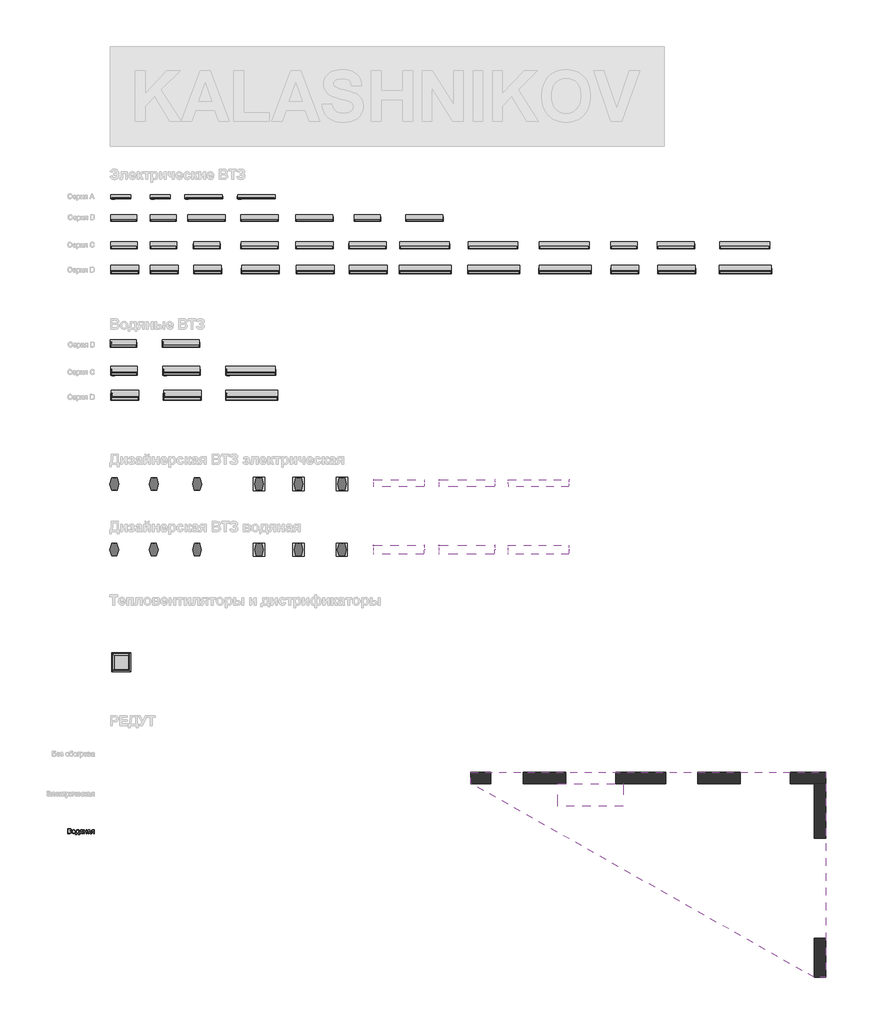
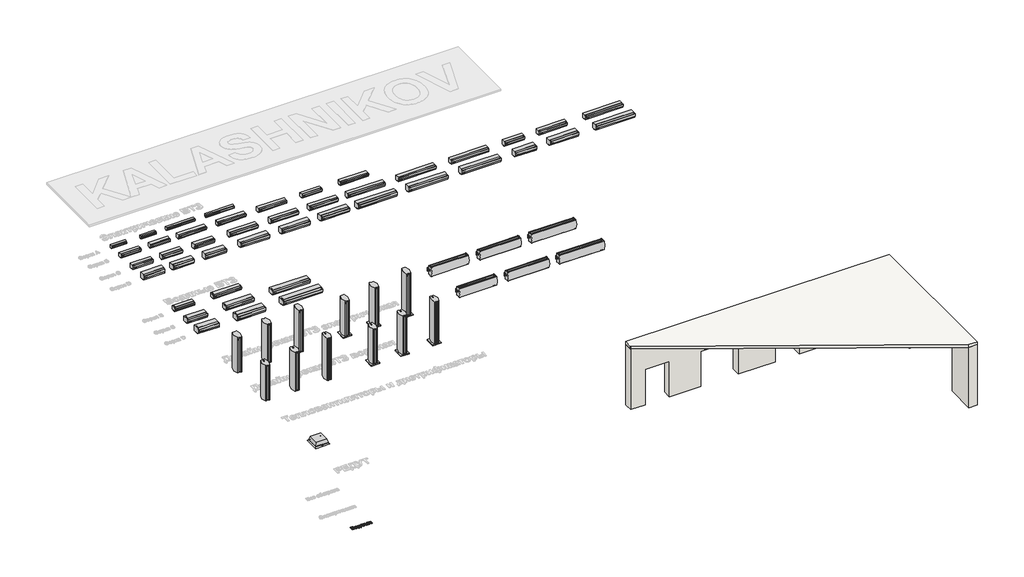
# One storey, part 1 of 8: 63 proxies, 2 slabs, 2 walls.
"""IFC4 building model written with IfcOpenShell, lengths in millimetres."""

from ifc_helpers import new_model, si_unit, frame, origin, origin_with_axes, place, context, project, spatial, polyline, outline, extrude, faceted_brep, transform, mapped, element, save
from components import mechanical_equipment_baf8c299, mechanical_equipment_bb79ffea, mechanical_equipment_50f86838, mechanical_equipment_3402af0e, mechanical_equipment_5d67843a, mechanical_equipment_067d93a8, mechanical_equipment_b95bc2a5, mechanical_equipment_7584899c, mechanical_equipment_d3ca2cf4, mechanical_equipment_8353c0a6, mechanical_equipment_543ff3b5, mechanical_equipment_aabc1666, mechanical_equipment_9118009e, mechanical_equipment_6979c24a, mechanical_equipment_54d49482, mechanical_equipment_cf9eca2f, mechanical_equipment_031cc24c, mechanical_equipment_d82694fb, mechanical_equipment_9d049b99, mechanical_equipment_add983ee, mechanical_equipment_00a1be9c, mechanical_equipment_44363e42, mechanical_equipment_894f7229, mechanical_equipment_7947e5b6, mechanical_equipment_0e06450b, mechanical_equipment_313d402d, mechanical_equipment_6004fcc8, mechanical_equipment_da6643d4, mechanical_equipment_ca8eee42, mechanical_equipment_3b4bcd0b, mechanical_equipment_2b375cc0, mechanical_equipment_2aded307, mechanical_equipment_84d2b772, mechanical_equipment_74a944ee, mechanical_equipment_6c2af282, mechanical_equipment_045b932d, mechanical_equipment_433b3347, slab_f59de0b8

model = new_model("IFC4")

# Units and contexts
model_context = context("Model", 3, world=origin())
ifc_project = project(units=[si_unit("LENGTHUNIT", "METRE", prefix="MILLI")], contexts=[model_context])

# Site, building, storey
site = spatial("IfcSite", under=ifc_project)
building = spatial("IfcBuilding", under=site)
storey = spatial("IfcBuildingStorey", under=building, Name="Уровень 1", Elevation=0.0)

# Proxies
placement = place(None, origin())
element("IfcBuildingElementProxy", 1, Name="ИЗТТ_Текст2", ObjectType="ИЗТТ_Текст2", at=placement, inside=storey, context=model_context, shape_type="SweptSolid", body=[
    extrude(outline(polyline([(-17054.3418668, -9647.3341615), (-17054.3418668, -9446.4215412), (-16977.675259, -9446.4215412), (-16956.5894893, -9447.8992005), (-16940.1267701, -9452.3321786), (-16927.5084176, -9459.8308399), (-16917.9557485, -9470.5055492), (-16911.9408779, -9483.0625879), (-16909.935921, -9496.2082379), (-16911.6220468, -9508.3054242), (-16916.6804242, -9519.6791092), (-16925.1478415, -9529.6303171), (-16937.0610868, -9537.4600723), (-16922.8301849, -9544.8912886), (-16912.3148912, -9556.1975286), (-16905.821774, -9570.6307655), (-16903.6574016, -9587.4429727), (-16909.568039, -9614.4455111), (-16924.2097424, -9633.6734767), (-16946.0619329, -9643.8760707), (-16978.2638702, -9647.3341615), (-17054.3418668, -9647.3341615)]), holes=[polyline([(-17029.2277893, -9528.0422932), (-16983.3651672, -9528.0422932), (-16956.583358, -9525.8840522), (-16940.4701266, -9516.5889004), (-16935.0499985, -9500.2304144), (-16940.1022446, -9483.8474028), (-16954.5722697, -9474.1598436), (-16986.8477834, -9471.5356187), (-17029.2277893, -9471.5356187), (-17029.2277893, -9528.0422932)]), polyline([(-17029.2277893, -9622.220084), (-16977.72431, -9622.220084), (-16959.0849555, -9621.2390653), (-16943.3150807, -9615.7698863), (-16932.867232, -9604.6107991), (-16928.7714791, -9587.6882273), (-16933.5784705, -9568.1659561), (-16939.875384, -9561.1087532), (-16949.1521417, -9556.5163596), (-16980.1768566, -9553.1563707), (-17029.2277893, -9553.1563707), (-17029.2277893, -9622.220084)])]), origin_with_axes(), (0.0, 0.0, 1.0), 30.0),
    extrude(outline(polyline([(-16878.5433241, -9573.5615587), (-16873.1109333, -9537.9873698), (-16866.3204448, -9524.1642038), (-16856.8137609, -9512.9836569), (-16836.678353, -9500.7331864), (-16812.5698196, -9496.6496963), (-16786.1865492, -9501.6222346), (-16765.1130422, -9516.5398495), (-16751.2990733, -9540.2253186), (-16746.694417, -9571.5014196), (-16748.7300307, -9596.8730145), (-16754.8368718, -9616.1868192), (-16764.8371307, -9630.650713), (-16778.5529978, -9641.472575), (-16794.8440388, -9648.2232097), (-16812.5698196, -9650.4734212), (-16839.2719211, -9645.519277), (-16860.3209026, -9630.6568444), (-16873.9877187, -9606.4747346), (-16878.5433241, -9573.5615587)]), holes=[polyline([(-16853.4292465, -9573.5125078), (-16850.5229788, -9596.2414837), (-16841.8041755, -9612.4344229), (-16828.683051, -9622.1281135), (-16812.5698196, -9625.3593437), (-16796.5301646, -9622.1097194), (-16783.4335656, -9612.3608465), (-16774.7147623, -9595.9533095), (-16771.8084945, -9572.7276929), (-16774.7331564, -9550.6609045), (-16783.507142, -9534.6886946), (-16796.6221351, -9524.995004), (-16812.5698196, -9521.7637738), (-16828.683051, -9524.9827413), (-16841.8041755, -9534.6396436), (-16850.5229788, -9550.7957946), (-16853.4292465, -9573.5125078)])]), origin_with_axes(), (0.0, 0.0, 1.0), 30.0),
    extrude(outline(polyline([(-16696.4662619, -9499.788956), (-16602.2884712, -9499.788956), (-16602.2884712, -9622.220084), (-16583.452913, -9622.220084), (-16583.452913, -9688.1445375), (-16608.5669905, -9688.1445375), (-16608.5669905, -9647.3341615), (-16712.1625604, -9647.3341615), (-16712.1625604, -9688.1445375), (-16737.2766379, -9688.1445375), (-16737.2766379, -9622.220084), (-16721.5803395, -9622.220084), (-16710.1698662, -9601.6002981), (-16702.1806956, -9574.3218482), (-16697.6128275, -9540.3847341), (-16696.4662619, -9499.788956)]), holes=[polyline([(-16674.4914441, -9524.9030335), (-16680.377556, -9582.1209465), (-16693.3270022, -9622.220084), (-16627.4025487, -9622.220084), (-16627.4025487, -9524.9030335), (-16674.4914441, -9524.9030335)])]), origin_with_axes(), (0.0, 0.0, 1.0), 30.0),
    extrude(outline(polyline([(-16442.1862268, -9499.788956), (-16442.1862268, -9647.3341615), (-16467.3003044, -9647.3341615), (-16467.3003044, -9590.827487), (-16480.9855146, -9590.827487), (-16499.624869, -9594.0157977), (-16517.136052, -9615.4510553), (-16537.1488325, -9647.3341615), (-16566.1869847, -9647.3341615), (-16540.9748053, -9607.0142948), (-16529.8402436, -9592.5442697), (-16519.5885986, -9586.1185975), (-16536.7564251, -9580.857885), (-16548.8229545, -9570.8637574), (-16555.9598652, -9557.5709547), (-16558.3388355, -9542.4142165), (-16555.0892112, -9525.2218646), (-16545.3403383, -9511.6102307), (-16529.4355734, -9502.7442747), (-16507.7182729, -9499.788956), (-16442.1862268, -9499.788956)]), holes=[polyline([(-16467.3003044, -9524.9030335), (-16500.409684, -9524.9030335), (-16517.5100654, -9526.3561674), (-16527.2160187, -9530.715569), (-16533.2247579, -9544.3272029), (-16531.0113346, -9553.8982661), (-16524.3710646, -9560.5385361), (-16512.1022, -9564.4196912), (-16493.0029931, -9565.7134095), (-16467.3003044, -9565.7134095), (-16467.3003044, -9524.9030335)])]), origin_with_axes(), (0.0, 0.0, 1.0), 30.0),
    extrude(outline(polyline([(-16404.5151105, -9499.788956), (-16379.401033, -9499.788956), (-16379.401033, -9556.2956304), (-16313.4765795, -9556.2956304), (-16313.4765795, -9499.788956), (-16288.3625019, -9499.788956), (-16288.3625019, -9647.3341615), (-16313.4765795, -9647.3341615), (-16313.4765795, -9581.409708), (-16379.401033, -9581.409708), (-16379.401033, -9647.3341615), (-16404.5151105, -9647.3341615), (-16404.5151105, -9499.788956)])), origin_with_axes(), (0.0, 0.0, 1.0), 30.0),
    extrude(outline(polyline([(-16156.5135949, -9628.4986033), (-16180.8673829, -9645.519277), (-16207.7718195, -9650.4734212), (-16228.7594873, -9647.493577), (-16244.241188, -9638.5540445), (-16253.7877258, -9624.9791989), (-16256.969905, -9608.0934153), (-16252.1629136, -9588.2277876), (-16239.5322984, -9573.8068134), (-16221.9475391, -9565.5662567), (-16200.2179759, -9561.7893349), (-16156.6607477, -9553.1563707), (-16156.5135949, -9547.5645644), (-16158.2426402, -9536.3564263), (-16163.4297764, -9529.0233119), (-16175.030322, -9523.5786583), (-16191.1926043, -9521.7637738), (-16206.1531387, -9522.971653), (-16216.6009874, -9526.5952907), (-16223.7256354, -9533.2968744), (-16228.7165678, -9543.7385917), (-16253.8306453, -9540.599332), (-16242.9658637, -9516.0738656), (-16233.7075002, -9507.8210462), (-16221.0891477, -9501.7019423), (-16187.9552427, -9496.6496963), (-16157.519139, -9501.1133312), (-16140.3267871, -9512.3214693), (-16132.6257906, -9529.3666684), (-16131.3995173, -9551.3414862), (-16131.3995173, -9582.5869303), (-16130.1241931, -9626.217735), (-16125.1209979, -9647.3341615), (-16150.2350755, -9647.3341615), (-16156.5135949, -9628.4986033)]), holes=[polyline([(-16156.5135949, -9578.2704483), (-16197.0296653, -9585.9714447), (-16218.6366011, -9590.0426721), (-16228.4222622, -9596.664548), (-16231.8558275, -9606.3275818), (-16229.9857607, -9613.7955863), (-16224.3755602, -9619.9146901), (-16215.1478535, -9623.9981803), (-16202.4252679, -9625.3593437), (-16188.9362614, -9623.8571588), (-16177.0168847, -9619.3506044), (-16160.6338732, -9604.8070029), (-16156.6607477, -9585.3828335), (-16156.5135949, -9578.2704483)])]), origin_with_axes(), (0.0, 0.0, 1.0), 30.0),
    extrude(outline(polyline([(-15983.8543118, -9499.788956), (-15983.8543118, -9647.3341615), (-16008.9683893, -9647.3341615), (-16008.9683893, -9590.827487), (-16022.6535995, -9590.827487), (-16041.292954, -9594.0157977), (-16058.8041369, -9615.4510553), (-16078.8169175, -9647.3341615), (-16107.8550696, -9647.3341615), (-16082.6428902, -9607.0142948), (-16071.5083285, -9592.5442697), (-16061.2566836, -9586.1185975), (-16078.42451, -9580.857885), (-16090.4910395, -9570.8637574), (-16097.6279502, -9557.5709547), (-16100.0069204, -9542.4142165), (-16096.7572961, -9525.2218646), (-16087.0084232, -9511.6102307), (-16071.1036583, -9502.7442747), (-16049.3863579, -9499.788956), (-15983.8543118, -9499.788956)]), holes=[polyline([(-16008.9683893, -9524.9030335), (-16042.0777689, -9524.9030335), (-16059.1781503, -9526.3561674), (-16068.8841036, -9530.715569), (-16074.8928429, -9544.3272029), (-16072.6794195, -9553.8982661), (-16066.0391495, -9560.5385361), (-16053.770285, -9564.4196912), (-16034.6710781, -9565.7134095), (-16008.9683893, -9565.7134095), (-16008.9683893, -9524.9030335)])]), origin_with_axes(), (0.0, 0.0, 1.0), 30.0),
])
mechanical_equipment_shape = mechanical_equipment_baf8c299(model_context)
element("IfcBuildingElementProxy", 2, Name="ИЗТТ_Завеса_Водяная : KVC-B15W14-11", ObjectType="ИЗТТ_Завеса_Водяная : KVC-B15W14-11", at=placement, inside=storey, context=model_context, shape_type="MappedRepresentation", body=[
    mapped(mechanical_equipment_shape, transform((-12514.5918171, 10150.1543287, 0.0), x_axis=(1.0, 0.0, 0.0), y_axis=(0.0, 1.0, 0.0), z_axis=(0.0, 0.0, 1.0))),
])
mechanical_equipment_2_shape = mechanical_equipment_bb79ffea(model_context)
element("IfcBuildingElementProxy", 3, Name="ИЗТТ_Завеса_Водяная : KVC-B10W8-11", ObjectType="ИЗТТ_Завеса_Водяная : KVC-B10W8-11", at=placement, inside=storey, context=model_context, shape_type="MappedRepresentation", body=[
    mapped(mechanical_equipment_2_shape, transform((-14817.4711208, 10150.1543287, 0.0), x_axis=(1.0, 0.0, 0.0), y_axis=(0.0, 1.0, 0.0), z_axis=(0.0, 0.0, 1.0))),
])
mechanical_equipment_3_shape = mechanical_equipment_50f86838(model_context)
element("IfcBuildingElementProxy", 4, Name="ИЗТТ_Завеса_Водяная : KVC-D20W50-11", ObjectType="ИЗТТ_Завеса_Водяная : KVC-D20W50-11", at=placement, inside=storey, context=model_context, shape_type="MappedRepresentation", body=[
    mapped(mechanical_equipment_3_shape, transform((-9678.6283059, 8128.0241411, 0.0), x_axis=(1.0, 0.0, 0.0), y_axis=(0.0, 1.0, 0.0), z_axis=(0.0, 0.0, 1.0))),
])
mechanical_equipment_4_shape = mechanical_equipment_3402af0e(model_context)
element("IfcBuildingElementProxy", 5, Name="ИЗТТ_Завеса_Водяная : KVC-D15W33-11", ObjectType="ИЗТТ_Завеса_Водяная : KVC-D15W33-11", at=placement, inside=storey, context=model_context, shape_type="MappedRepresentation", body=[
    mapped(mechanical_equipment_4_shape, transform((-12454.5918171, 8128.0241411, 0.0), x_axis=(1.0, 0.0, 0.0), y_axis=(0.0, 1.0, 0.0), z_axis=(0.0, 0.0, 1.0))),
])
mechanical_equipment_5_shape = mechanical_equipment_5d67843a(model_context)
element("IfcBuildingElementProxy", 6, Name="ИЗТТ_Завеса_Водяная : KVC-D10W20-11", ObjectType="ИЗТТ_Завеса_Водяная : KVC-D10W20-11", at=placement, inside=storey, context=model_context, shape_type="MappedRepresentation", body=[
    mapped(mechanical_equipment_5_shape, transform((-14757.4711208, 8128.0241411, 0.0), x_axis=(1.0, 0.0, 0.0), y_axis=(0.0, 1.0, 0.0), z_axis=(0.0, 0.0, 1.0))),
])
mechanical_equipment_6_shape = mechanical_equipment_067d93a8(model_context)
element("IfcBuildingElementProxy", 7, Name="ИЗТТ_Завеса_Водяная : KVC-C20W30-11", ObjectType="ИЗТТ_Завеса_Водяная : KVC-C20W30-11", at=placement, inside=storey, context=model_context, shape_type="MappedRepresentation", body=[
    mapped(mechanical_equipment_6_shape, transform((-9718.6283059, 9077.206226, 0.0), x_axis=(1.0, 0.0, 0.0), y_axis=(0.0, 1.0, 0.0), z_axis=(0.0, 0.0, 1.0))),
])
mechanical_equipment_7_shape = mechanical_equipment_b95bc2a5(model_context)
element("IfcBuildingElementProxy", 8, Name="ИЗТТ_Завеса_Водяная : KVC-C15W20-11", ObjectType="ИЗТТ_Завеса_Водяная : KVC-C15W20-11", at=placement, inside=storey, context=model_context, shape_type="MappedRepresentation", body=[
    mapped(mechanical_equipment_7_shape, transform((-12494.5918171, 9077.206226, 0.0), x_axis=(1.0, 0.0, 0.0), y_axis=(0.0, 1.0, 0.0), z_axis=(0.0, 0.0, 1.0))),
])
mechanical_equipment_8_shape = mechanical_equipment_7584899c(model_context)
element("IfcBuildingElementProxy", 9, Name="ИЗТТ_Завеса_Водяная : KVC-C10W12-11", ObjectType="ИЗТТ_Завеса_Водяная : KVC-C10W12-11", at=placement, inside=storey, context=model_context, shape_type="MappedRepresentation", body=[
    mapped(mechanical_equipment_8_shape, transform((-14797.4711208, 9077.206226, 0.0), x_axis=(1.0, 0.0, 0.0), y_axis=(0.0, 1.0, 0.0), z_axis=(0.0, 0.0, 1.0))),
])
mechanical_equipment_9_shape = mechanical_equipment_d3ca2cf4(model_context)
element("IfcBuildingElementProxy", 10, Name="ИЗТТ_Завеса дизайнерская_Водяная : KVC-S25W45-31", ObjectType="ИЗТТ_Завеса дизайнерская_Водяная : KVC-S25W45-31", at=placement, inside=storey, context=model_context, shape_type="MappedRepresentation", body=[
    mapped(mechanical_equipment_9_shape, transform((615.270943, 1727.9993812, 2400.0), x_axis=(0.0, 1.0, 0.0), y_axis=(0.0, 0.0, 1.0), z_axis=(1.0, 0.0, 0.0))),
])
mechanical_equipment_10_shape = mechanical_equipment_8353c0a6(model_context)
element("IfcBuildingElementProxy", 11, Name="ИЗТТ_Завеса дизайнерская_Водяная : KVC-S22W35-31", ObjectType="ИЗТТ_Завеса дизайнерская_Водяная : KVC-S22W35-31", at=placement, inside=storey, context=model_context, shape_type="MappedRepresentation", body=[
    mapped(mechanical_equipment_10_shape, transform((-2161.860404, 1727.9993812, 2400.0), x_axis=(0.0, 1.0, 0.0), y_axis=(0.0, 0.0, 1.0), z_axis=(1.0, 0.0, 0.0))),
])
mechanical_equipment_11_shape = mechanical_equipment_543ff3b5(model_context)
element("IfcBuildingElementProxy", 12, Name="ИЗТТ_Завеса дизайнерская_Водяная : KVC-S20W35-31", ObjectType="ИЗТТ_Завеса дизайнерская_Водяная : KVC-S20W35-31", at=placement, inside=storey, context=model_context, shape_type="MappedRepresentation", body=[
    mapped(mechanical_equipment_11_shape, transform((-4784.7397077, 1727.9993812, 2400.0), x_axis=(0.0, 1.0, 0.0), y_axis=(0.0, 0.0, 1.0), z_axis=(1.0, 0.0, 0.0))),
])
mechanical_equipment_12_shape = mechanical_equipment_aabc1666(model_context)
element("IfcBuildingElementProxy", 13, Name="ИЗТТ_Дестратификатор_Электрический : KVF-V-11", ObjectType="ИЗТТ_Дестратификатор_Электрический : KVF-V-11", at=placement, inside=storey, context=model_context, shape_type="MappedRepresentation", body=[
    mapped(mechanical_equipment_12_shape, transform((-14909.5198393, -2777.1730847, 0.0), x_axis=(1.0, 0.0, 0.0), y_axis=(0.0, 1.0, 0.0), z_axis=(0.0, 0.0, 1.0))),
])
mechanical_equipment_13_shape = mechanical_equipment_9118009e(model_context)
element("IfcBuildingElementProxy", 14, Name="ИЗТТ_Завеса_Электрическая : KVC-A08E3-11", ObjectType="ИЗТТ_Завеса_Электрическая : KVC-A08E3-11", at=placement, inside=storey, context=model_context, shape_type="MappedRepresentation", body=[
    mapped(mechanical_equipment_13_shape, transform((-14926.3277389, 15953.7645803, 0.0), x_axis=(1.0, 0.0, 0.0), y_axis=(0.0, 1.0, 0.0), z_axis=(0.0, 0.0, 1.0))),
])
element("IfcBuildingElementProxy", 15, Name="ИЗТТ_Завеса_Электрическая : KVC-A08E5-11", ObjectType="ИЗТТ_Завеса_Электрическая : KVC-A08E5-11", at=placement, inside=storey, context=model_context, shape_type="MappedRepresentation", body=[
    mapped(mechanical_equipment_13_shape, transform((-13343.4484352, 15953.7645803, 0.0), x_axis=(1.0, 0.0, 0.0), y_axis=(0.0, 1.0, 0.0), z_axis=(0.0, 0.0, 1.0))),
])
mechanical_equipment_14_shape = mechanical_equipment_6979c24a(model_context)
element("IfcBuildingElementProxy", 16, Name="ИЗТТ_Завеса_Электрическая : KVC-A15E6-11", ObjectType="ИЗТТ_Завеса_Электрическая : KVC-A15E6-11", at=placement, inside=storey, context=model_context, shape_type="MappedRepresentation", body=[
    mapped(mechanical_equipment_14_shape, transform((-11606.3170883, 15953.7645803, 0.0), x_axis=(1.0, 0.0, 0.0), y_axis=(0.0, 1.0, 0.0), z_axis=(0.0, 0.0, 1.0))),
])
element("IfcBuildingElementProxy", 17, Name="ИЗТТ_Завеса_Электрическая : KVC-A15E9-31", ObjectType="ИЗТТ_Завеса_Электрическая : KVC-A15E9-31", at=placement, inside=storey, context=model_context, shape_type="MappedRepresentation", body=[
    mapped(mechanical_equipment_14_shape, transform((-9487.4849241, 15953.7645803, 0.0), x_axis=(1.0, 0.0, 0.0), y_axis=(0.0, 1.0, 0.0), z_axis=(0.0, 0.0, 1.0))),
])
mechanical_equipment_15_shape = mechanical_equipment_54d49482(model_context)
element("IfcBuildingElementProxy", 18, Name="ИЗТТ_Завеса_Электрическая : KVC-B10E6-01", ObjectType="ИЗТТ_Завеса_Электрическая : KVC-B10E6-01", at=placement, inside=storey, context=model_context, shape_type="MappedRepresentation", body=[
    mapped(mechanical_equipment_15_shape, transform((-14806.3277389, 15153.7645803, 0.0), x_axis=(1.0, 0.0, 0.0), y_axis=(0.0, 1.0, 0.0), z_axis=(0.0, 0.0, 1.0))),
])
element("IfcBuildingElementProxy", 19, Name="ИЗТТ_Завеса_Электрическая : KVC-B10E9-31", ObjectType="ИЗТТ_Завеса_Электрическая : KVC-B10E9-31", at=placement, inside=storey, context=model_context, shape_type="MappedRepresentation", body=[
    mapped(mechanical_equipment_15_shape, transform((-13223.4484352, 15153.7645803, 0.0), x_axis=(1.0, 0.0, 0.0), y_axis=(0.0, 1.0, 0.0), z_axis=(0.0, 0.0, 1.0))),
])
mechanical_equipment_16_shape = mechanical_equipment_cf9eca2f(model_context)
element("IfcBuildingElementProxy", 20, Name="ИЗТТ_Завеса_Электрическая : KVC-B15E6-01", ObjectType="ИЗТТ_Завеса_Электрическая : KVC-B15E6-01", at=placement, inside=storey, context=model_context, shape_type="MappedRepresentation", body=[
    mapped(mechanical_equipment_16_shape, transform((-11486.3170883, 15153.7645803, 0.0), x_axis=(1.0, 0.0, 0.0), y_axis=(0.0, 1.0, 0.0), z_axis=(0.0, 0.0, 1.0))),
])
element("IfcBuildingElementProxy", 21, Name="ИЗТТ_Завеса_Электрическая : KVC-B15E9-31", ObjectType="ИЗТТ_Завеса_Электрическая : KVC-B15E9-31", at=placement, inside=storey, context=model_context, shape_type="MappedRepresentation", body=[
    mapped(mechanical_equipment_16_shape, transform((-9367.4849241, 15153.7645803, 0.0), x_axis=(1.0, 0.0, 0.0), y_axis=(0.0, 1.0, 0.0), z_axis=(0.0, 0.0, 1.0))),
])
element("IfcBuildingElementProxy", 22, Name="ИЗТТ_Завеса_Электрическая : KVC-B15E12-31", ObjectType="ИЗТТ_Завеса_Электрическая : KVC-B15E12-31", at=placement, inside=storey, context=model_context, shape_type="MappedRepresentation", body=[
    mapped(mechanical_equipment_16_shape, transform((-7164.8200164, 15153.7645803, 0.0), x_axis=(1.0, 0.0, 0.0), y_axis=(0.0, 1.0, 0.0), z_axis=(0.0, 0.0, 1.0))),
])
element("IfcBuildingElementProxy", 23, Name="ИЗТТ_Завеса_Электрическая : KVC-B10V-11", ObjectType="ИЗТТ_Завеса_Электрическая : KVC-B10V-11", at=placement, inside=storey, context=model_context, shape_type="MappedRepresentation", body=[
    mapped(mechanical_equipment_15_shape, transform((-5040.1237284, 15153.7645803, 0.0), x_axis=(1.0, 0.0, 0.0), y_axis=(0.0, 1.0, 0.0), z_axis=(0.0, 0.0, 1.0))),
])
element("IfcBuildingElementProxy", 24, Name="ИЗТТ_Завеса_Электрическая : KVC-B15V-11", ObjectType="ИЗТТ_Завеса_Электрическая : KVC-B15V-11", at=placement, inside=storey, context=model_context, shape_type="MappedRepresentation", body=[
    mapped(mechanical_equipment_16_shape, transform((-2757.2444247, 15153.7645803, 0.0), x_axis=(1.0, 0.0, 0.0), y_axis=(0.0, 1.0, 0.0), z_axis=(0.0, 0.0, 1.0))),
])
mechanical_equipment_17_shape = mechanical_equipment_031cc24c(model_context)
element("IfcBuildingElementProxy", 25, Name="ИЗТТ_Завеса_Электрическая : KVC-C10E6-01", ObjectType="ИЗТТ_Завеса_Электрическая : KVC-C10E6-01", at=placement, inside=storey, context=model_context, shape_type="MappedRepresentation", body=[
    mapped(mechanical_equipment_17_shape, transform((-14796.3277389, 14080.8164776, 0.0), x_axis=(1.0, 0.0, 0.0), y_axis=(0.0, 1.0, 0.0), z_axis=(0.0, 0.0, 1.0))),
])
element("IfcBuildingElementProxy", 26, Name="ИЗТТ_Завеса_Электрическая : KVC-C10E9-31", ObjectType="ИЗТТ_Завеса_Электрическая : KVC-C10E9-31", at=placement, inside=storey, context=model_context, shape_type="MappedRepresentation", body=[
    mapped(mechanical_equipment_17_shape, transform((-13213.4484352, 14080.8164776, 0.0), x_axis=(1.0, 0.0, 0.0), y_axis=(0.0, 1.0, 0.0), z_axis=(0.0, 0.0, 1.0))),
])
element("IfcBuildingElementProxy", 27, Name="ИЗТТ_Завеса_Электрическая : KVC-C10E12-31", ObjectType="ИЗТТ_Завеса_Электрическая : KVC-C10E12-31", at=placement, inside=storey, context=model_context, shape_type="MappedRepresentation", body=[
    mapped(mechanical_equipment_17_shape, transform((-11476.3170883, 14080.8164776, 0.0), x_axis=(1.0, 0.0, 0.0), y_axis=(0.0, 1.0, 0.0), z_axis=(0.0, 0.0, 1.0))),
])
mechanical_equipment_18_shape = mechanical_equipment_d82694fb(model_context)
element("IfcBuildingElementProxy", 28, Name="ИЗТТ_Завеса_Электрическая : KVC-C15E9-31", ObjectType="ИЗТТ_Завеса_Электрическая : KVC-C15E9-31", at=placement, inside=storey, context=model_context, shape_type="MappedRepresentation", body=[
    mapped(mechanical_equipment_18_shape, transform((-9357.4849241, 14080.8164776, 0.0), x_axis=(1.0, 0.0, 0.0), y_axis=(0.0, 1.0, 0.0), z_axis=(0.0, 0.0, 1.0))),
])
element("IfcBuildingElementProxy", 29, Name="ИЗТТ_Завеса_Электрическая : KVC-C15E12-31", ObjectType="ИЗТТ_Завеса_Электрическая : KVC-C15E12-31", at=placement, inside=storey, context=model_context, shape_type="MappedRepresentation", body=[
    mapped(mechanical_equipment_18_shape, transform((-7154.8200164, 14080.8164776, 0.0), x_axis=(1.0, 0.0, 0.0), y_axis=(0.0, 1.0, 0.0), z_axis=(0.0, 0.0, 1.0))),
])
element("IfcBuildingElementProxy", 30, Name="ИЗТТ_Завеса_Электрическая : KVC-C15E15-31", ObjectType="ИЗТТ_Завеса_Электрическая : KVC-C15E15-31", at=placement, inside=storey, context=model_context, shape_type="MappedRepresentation", body=[
    mapped(mechanical_equipment_18_shape, transform((-5030.1237284, 14080.8164776, 0.0), x_axis=(1.0, 0.0, 0.0), y_axis=(0.0, 1.0, 0.0), z_axis=(0.0, 0.0, 1.0))),
])
mechanical_equipment_19_shape = mechanical_equipment_9d049b99(model_context)
element("IfcBuildingElementProxy", 31, Name="ИЗТТ_Завеса_Электрическая : KVC-C20E12-31", ObjectType="ИЗТТ_Завеса_Электрическая : KVC-C20E12-31", at=placement, inside=storey, context=model_context, shape_type="MappedRepresentation", body=[
    mapped(mechanical_equipment_19_shape, transform((-2747.2444247, 14080.8164776, 0.0), x_axis=(1.0, 0.0, 0.0), y_axis=(0.0, 1.0, 0.0), z_axis=(0.0, 0.0, 1.0))),
])
element("IfcBuildingElementProxy", 32, Name="ИЗТТ_Завеса_Электрическая : KVC-C20E18-31", ObjectType="ИЗТТ_Завеса_Электрическая : KVC-C20E18-31", at=placement, inside=storey, context=model_context, shape_type="MappedRepresentation", body=[
    mapped(mechanical_equipment_19_shape, transform((-2.6987182, 14080.8164776, 0.0), x_axis=(1.0, 0.0, 0.0), y_axis=(0.0, 1.0, 0.0), z_axis=(0.0, 0.0, 1.0))),
])
element("IfcBuildingElementProxy", 33, Name="ИЗТТ_Завеса_Электрическая : KVC-C20E24-31", ObjectType="ИЗТТ_Завеса_Электрическая : KVC-C20E24-31", at=placement, inside=storey, context=model_context, shape_type="MappedRepresentation", body=[
    mapped(mechanical_equipment_19_shape, transform((2853.48055, 14080.8164776, 0.0), x_axis=(1.0, 0.0, 0.0), y_axis=(0.0, 1.0, 0.0), z_axis=(0.0, 0.0, 1.0))),
])
element("IfcBuildingElementProxy", 34, Name="ИЗТТ_Завеса_Электрическая : KVC-C10V-11", ObjectType="ИЗТТ_Завеса_Электрическая : KVC-C10V-11", at=placement, inside=storey, context=model_context, shape_type="MappedRepresentation", body=[
    mapped(mechanical_equipment_17_shape, transform((5252.8636062, 14080.8164776, 0.0), x_axis=(1.0, 0.0, 0.0), y_axis=(0.0, 1.0, 0.0), z_axis=(0.0, 0.0, 1.0))),
])
element("IfcBuildingElementProxy", 35, Name="ИЗТТ_Завеса_Электрическая : KVC-C15V-11", ObjectType="ИЗТТ_Завеса_Электрическая : KVC-C15V-11", at=placement, inside=storey, context=model_context, shape_type="MappedRepresentation", body=[
    mapped(mechanical_equipment_18_shape, transform((7324.3914282, 14080.8164776, 0.0), x_axis=(1.0, 0.0, 0.0), y_axis=(0.0, 1.0, 0.0), z_axis=(0.0, 0.0, 1.0))),
])
element("IfcBuildingElementProxy", 36, Name="ИЗТТ_Завеса_Электрическая : KVC-C20V-11", ObjectType="ИЗТТ_Завеса_Электрическая : KVC-C20V-11", at=placement, inside=storey, context=model_context, shape_type="MappedRepresentation", body=[
    mapped(mechanical_equipment_19_shape, transform((10083.4125699, 14080.8164776, 0.0), x_axis=(1.0, 0.0, 0.0), y_axis=(0.0, 1.0, 0.0), z_axis=(0.0, 0.0, 1.0))),
])
mechanical_equipment_20_shape = mechanical_equipment_add983ee(model_context)
element("IfcBuildingElementProxy", 37, Name="ИЗТТ_Завеса_Электрическая : KVC-D10E9-31", ObjectType="ИЗТТ_Завеса_Электрическая : KVC-D10E9-31", at=placement, inside=storey, context=model_context, shape_type="MappedRepresentation", body=[
    mapped(mechanical_equipment_20_shape, transform((-14766.3277389, 13131.6343927, 0.0), x_axis=(1.0, 0.0, 0.0), y_axis=(0.0, 1.0, 0.0), z_axis=(0.0, 0.0, 1.0))),
])
element("IfcBuildingElementProxy", 38, Name="ИЗТТ_Завеса_Электрическая : KVC-D10E12-31", ObjectType="ИЗТТ_Завеса_Электрическая : KVC-D10E12-31", at=placement, inside=storey, context=model_context, shape_type="MappedRepresentation", body=[
    mapped(mechanical_equipment_20_shape, transform((-13183.4484352, 13131.6343927, 0.0), x_axis=(1.0, 0.0, 0.0), y_axis=(0.0, 1.0, 0.0), z_axis=(0.0, 0.0, 1.0))),
])
element("IfcBuildingElementProxy", 39, Name="ИЗТТ_Завеса_Электрическая : KVC-D10E18-31", ObjectType="ИЗТТ_Завеса_Электрическая : KVC-D10E18-31", at=placement, inside=storey, context=model_context, shape_type="MappedRepresentation", body=[
    mapped(mechanical_equipment_20_shape, transform((-11446.3170883, 13131.6343927, 0.0), x_axis=(1.0, 0.0, 0.0), y_axis=(0.0, 1.0, 0.0), z_axis=(0.0, 0.0, 1.0))),
])
mechanical_equipment_21_shape = mechanical_equipment_00a1be9c(model_context)
element("IfcBuildingElementProxy", 40, Name="ИЗТТ_Завеса_Электрическая : KVC-D15E12-31", ObjectType="ИЗТТ_Завеса_Электрическая : KVC-D15E12-31", at=placement, inside=storey, context=model_context, shape_type="MappedRepresentation", body=[
    mapped(mechanical_equipment_21_shape, transform((-9327.4849241, 13131.6343927, 0.0), x_axis=(1.0, 0.0, 0.0), y_axis=(0.0, 1.0, 0.0), z_axis=(0.0, 0.0, 1.0))),
])
element("IfcBuildingElementProxy", 41, Name="ИЗТТ_Завеса_Электрическая : KVC-D15E18-31", ObjectType="ИЗТТ_Завеса_Электрическая : KVC-D15E18-31", at=placement, inside=storey, context=model_context, shape_type="MappedRepresentation", body=[
    mapped(mechanical_equipment_21_shape, transform((-7124.8200164, 13131.6343927, 0.0), x_axis=(1.0, 0.0, 0.0), y_axis=(0.0, 1.0, 0.0), z_axis=(0.0, 0.0, 1.0))),
])
element("IfcBuildingElementProxy", 42, Name="ИЗТТ_Завеса_Электрическая : KVC-D15E24-31", ObjectType="ИЗТТ_Завеса_Электрическая : KVC-D15E24-31", at=placement, inside=storey, context=model_context, shape_type="MappedRepresentation", body=[
    mapped(mechanical_equipment_21_shape, transform((-5000.1237284, 13131.6343927, 0.0), x_axis=(1.0, 0.0, 0.0), y_axis=(0.0, 1.0, 0.0), z_axis=(0.0, 0.0, 1.0))),
])
mechanical_equipment_22_shape = mechanical_equipment_44363e42(model_context)
element("IfcBuildingElementProxy", 43, Name="ИЗТТ_Завеса_Электрическая : KVC-D20E18-31", ObjectType="ИЗТТ_Завеса_Электрическая : KVC-D20E18-31", at=placement, inside=storey, context=model_context, shape_type="MappedRepresentation", body=[
    mapped(mechanical_equipment_22_shape, transform((-2717.2444247, 13131.6343927, 0.0), x_axis=(1.0, 0.0, 0.0), y_axis=(0.0, 1.0, 0.0), z_axis=(0.0, 0.0, 1.0))),
])
element("IfcBuildingElementProxy", 44, Name="ИЗТТ_Завеса_Электрическая : KVC-D20E24-31", ObjectType="ИЗТТ_Завеса_Электрическая : KVC-D20E24-31", at=placement, inside=storey, context=model_context, shape_type="MappedRepresentation", body=[
    mapped(mechanical_equipment_22_shape, transform((27.3012818, 13131.6343927, 0.0), x_axis=(1.0, 0.0, 0.0), y_axis=(0.0, 1.0, 0.0), z_axis=(0.0, 0.0, 1.0))),
])
element("IfcBuildingElementProxy", 45, Name="ИЗТТ_Завеса_Электрическая : KVC-D20E36-31", ObjectType="ИЗТТ_Завеса_Электрическая : KVC-D20E36-31", at=placement, inside=storey, context=model_context, shape_type="MappedRepresentation", body=[
    mapped(mechanical_equipment_22_shape, transform((2883.48055, 13131.6343927, 0.0), x_axis=(1.0, 0.0, 0.0), y_axis=(0.0, 1.0, 0.0), z_axis=(0.0, 0.0, 1.0))),
])
element("IfcBuildingElementProxy", 46, Name="ИЗТТ_Завеса_Электрическая : KVC-D10V-11", ObjectType="ИЗТТ_Завеса_Электрическая : KVC-D10V-11", at=placement, inside=storey, context=model_context, shape_type="MappedRepresentation", body=[
    mapped(mechanical_equipment_20_shape, transform((5282.8636062, 13131.6343927, 0.0), x_axis=(1.0, 0.0, 0.0), y_axis=(0.0, 1.0, 0.0), z_axis=(0.0, 0.0, 1.0))),
])
element("IfcBuildingElementProxy", 47, Name="ИЗТТ_Завеса_Электрическая : KVC-D15V-11", ObjectType="ИЗТТ_Завеса_Электрическая : KVC-D15V-11", at=placement, inside=storey, context=model_context, shape_type="MappedRepresentation", body=[
    mapped(mechanical_equipment_21_shape, transform((7354.3914282, 13131.6343927, 0.0), x_axis=(1.0, 0.0, 0.0), y_axis=(0.0, 1.0, 0.0), z_axis=(0.0, 0.0, 1.0))),
])
element("IfcBuildingElementProxy", 48, Name="ИЗТТ_Завеса_Электрическая : KVC-D20V-11", ObjectType="ИЗТТ_Завеса_Электрическая : KVC-D20V-11", at=placement, inside=storey, context=model_context, shape_type="MappedRepresentation", body=[
    mapped(mechanical_equipment_22_shape, transform((10113.4125699, 13131.6343927, 0.0), x_axis=(1.0, 0.0, 0.0), y_axis=(0.0, 1.0, 0.0), z_axis=(0.0, 0.0, 1.0))),
])
mechanical_equipment_23_shape = mechanical_equipment_894f7229(model_context)
element("IfcBuildingElementProxy", 49, Name="ИЗТТ_Завеса дизайнерская_Электрическая : KVC-S20E18-31", ObjectType="ИЗТТ_Завеса дизайнерская_Электрическая : KVC-S20E18-31", at=placement, inside=storey, context=model_context, shape_type="MappedRepresentation", body=[
    mapped(mechanical_equipment_23_shape, transform((-15180.959576, 4361.1668019, 0.0), x_axis=(1.0, 0.0, 0.0), y_axis=(0.0, 1.0, 0.0), z_axis=(0.0, 0.0, 1.0))),
])
mechanical_equipment_24_shape = mechanical_equipment_7947e5b6(model_context)
element("IfcBuildingElementProxy", 50, Name="ИЗТТ_Завеса дизайнерская_Электрическая : KVC-S22E18-31", ObjectType="ИЗТТ_Завеса дизайнерская_Электрическая : KVC-S22E18-31", at=placement, inside=storey, context=model_context, shape_type="MappedRepresentation", body=[
    mapped(mechanical_equipment_24_shape, transform((-13598.0802723, 4361.1668019, 0.0), x_axis=(1.0, 0.0, 0.0), y_axis=(0.0, 1.0, 0.0), z_axis=(0.0, 0.0, 1.0))),
])
mechanical_equipment_25_shape = mechanical_equipment_0e06450b(model_context)
element("IfcBuildingElementProxy", 51, Name="ИЗТТ_Завеса дизайнерская_Электрическая : KVC-S25E24-31", ObjectType="ИЗТТ_Завеса дизайнерская_Электрическая : KVC-S25E24-31", at=placement, inside=storey, context=model_context, shape_type="MappedRepresentation", body=[
    mapped(mechanical_equipment_25_shape, transform((-11860.9489254, 4361.1668019, 0.0), x_axis=(1.0, 0.0, 0.0), y_axis=(0.0, 1.0, 0.0), z_axis=(0.0, 0.0, 1.0))),
])
mechanical_equipment_26_shape = mechanical_equipment_313d402d(model_context)
element("IfcBuildingElementProxy", 52, Name="ИЗТТ_Завеса дизайнерская_Водяная : KVC-S20W35-31", ObjectType="ИЗТТ_Завеса дизайнерская_Водяная : KVC-S20W35-31", at=placement, inside=storey, context=model_context, shape_type="MappedRepresentation", body=[
    mapped(mechanical_equipment_26_shape, transform((-15185.2397077, 1727.9993812, 0.0), x_axis=(1.0, 0.0, 0.0), y_axis=(0.0, 1.0, 0.0), z_axis=(0.0, 0.0, 1.0))),
])
mechanical_equipment_27_shape = mechanical_equipment_6004fcc8(model_context)
element("IfcBuildingElementProxy", 53, Name="ИЗТТ_Завеса дизайнерская_Водяная : KVC-S22W35-31", ObjectType="ИЗТТ_Завеса дизайнерская_Водяная : KVC-S22W35-31", at=placement, inside=storey, context=model_context, shape_type="MappedRepresentation", body=[
    mapped(mechanical_equipment_27_shape, transform((-13602.360404, 1727.9993812, 0.0), x_axis=(1.0, 0.0, 0.0), y_axis=(0.0, 1.0, 0.0), z_axis=(0.0, 0.0, 1.0))),
])
mechanical_equipment_28_shape = mechanical_equipment_da6643d4(model_context)
element("IfcBuildingElementProxy", 54, Name="ИЗТТ_Завеса дизайнерская_Водяная : KVC-S25W45-31", ObjectType="ИЗТТ_Завеса дизайнерская_Водяная : KVC-S25W45-31", at=placement, inside=storey, context=model_context, shape_type="MappedRepresentation", body=[
    mapped(mechanical_equipment_28_shape, transform((-11865.229057, 1727.9993812, 0.0), x_axis=(1.0, 0.0, 0.0), y_axis=(0.0, 1.0, 0.0), z_axis=(0.0, 0.0, 1.0))),
])
mechanical_equipment_29_shape = mechanical_equipment_ca8eee42(model_context)
element("IfcBuildingElementProxy", 55, Name="ИЗТТ_Завеса дизайнерская_Водяная : KVC-S20W35-31", ObjectType="ИЗТТ_Завеса дизайнерская_Водяная : KVC-S20W35-31", at=placement, inside=storey, context=model_context, shape_type="MappedRepresentation", body=[
    mapped(mechanical_equipment_29_shape, transform((-9385.2397077, 1727.9993812, 0.0), x_axis=(1.0, 0.0, 0.0), y_axis=(0.0, 1.0, 0.0), z_axis=(0.0, 0.0, 1.0))),
])
mechanical_equipment_30_shape = mechanical_equipment_3b4bcd0b(model_context)
element("IfcBuildingElementProxy", 56, Name="ИЗТТ_Завеса дизайнерская_Водяная : KVC-S22W35-31", ObjectType="ИЗТТ_Завеса дизайнерская_Водяная : KVC-S22W35-31", at=placement, inside=storey, context=model_context, shape_type="MappedRepresentation", body=[
    mapped(mechanical_equipment_30_shape, transform((-7802.360404, 1727.9993812, 0.0), x_axis=(1.0, 0.0, 0.0), y_axis=(0.0, 1.0, 0.0), z_axis=(0.0, 0.0, 1.0))),
])
mechanical_equipment_31_shape = mechanical_equipment_2b375cc0(model_context)
element("IfcBuildingElementProxy", 57, Name="ИЗТТ_Завеса дизайнерская_Водяная : KVC-S25W45-31", ObjectType="ИЗТТ_Завеса дизайнерская_Водяная : KVC-S25W45-31", at=placement, inside=storey, context=model_context, shape_type="MappedRepresentation", body=[
    mapped(mechanical_equipment_31_shape, transform((-6065.229057, 1727.9993812, 0.0), x_axis=(1.0, 0.0, 0.0), y_axis=(0.0, 1.0, 0.0), z_axis=(0.0, 0.0, 1.0))),
])
mechanical_equipment_32_shape = mechanical_equipment_2aded307(model_context)
element("IfcBuildingElementProxy", 58, Name="ИЗТТ_Завеса дизайнерская_Электрическая : KVC-S20E18-31", ObjectType="ИЗТТ_Завеса дизайнерская_Электрическая : KVC-S20E18-31", at=placement, inside=storey, context=model_context, shape_type="MappedRepresentation", body=[
    mapped(mechanical_equipment_32_shape, transform((-9380.959576, 4361.1668019, 0.0), x_axis=(1.0, 0.0, 0.0), y_axis=(0.0, 1.0, 0.0), z_axis=(0.0, 0.0, 1.0))),
])
mechanical_equipment_33_shape = mechanical_equipment_84d2b772(model_context)
element("IfcBuildingElementProxy", 59, Name="ИЗТТ_Завеса дизайнерская_Электрическая : KVC-S22E18-31", ObjectType="ИЗТТ_Завеса дизайнерская_Электрическая : KVC-S22E18-31", at=placement, inside=storey, context=model_context, shape_type="MappedRepresentation", body=[
    mapped(mechanical_equipment_33_shape, transform((-7798.0802723, 4361.1668019, 0.0), x_axis=(1.0, 0.0, 0.0), y_axis=(0.0, 1.0, 0.0), z_axis=(0.0, 0.0, 1.0))),
])
mechanical_equipment_34_shape = mechanical_equipment_74a944ee(model_context)
element("IfcBuildingElementProxy", 60, Name="ИЗТТ_Завеса дизайнерская_Электрическая : KVC-S25E24-31", ObjectType="ИЗТТ_Завеса дизайнерская_Электрическая : KVC-S25E24-31", at=placement, inside=storey, context=model_context, shape_type="MappedRepresentation", body=[
    mapped(mechanical_equipment_34_shape, transform((-6060.9489254, 4361.1668019, 0.0), x_axis=(1.0, 0.0, 0.0), y_axis=(0.0, 1.0, 0.0), z_axis=(0.0, 0.0, 1.0))),
])
mechanical_equipment_35_shape = mechanical_equipment_6c2af282(model_context)
element("IfcBuildingElementProxy", 61, Name="ИЗТТ_Завеса дизайнерская_Электрическая : KVC-S20E18-31", ObjectType="ИЗТТ_Завеса дизайнерская_Электрическая : KVC-S20E18-31", at=placement, inside=storey, context=model_context, shape_type="MappedRepresentation", body=[
    mapped(mechanical_equipment_35_shape, transform((-4780.459576, 4361.1668019, 2000.0), x_axis=(0.0, 1.0, 0.0), y_axis=(0.0, 0.0, 1.0), z_axis=(1.0, 0.0, 0.0))),
])
mechanical_equipment_36_shape = mechanical_equipment_045b932d(model_context)
element("IfcBuildingElementProxy", 62, Name="ИЗТТ_Завеса дизайнерская_Электрическая : KVC-S22E18-31", ObjectType="ИЗТТ_Завеса дизайнерская_Электрическая : KVC-S22E18-31", at=placement, inside=storey, context=model_context, shape_type="MappedRepresentation", body=[
    mapped(mechanical_equipment_36_shape, transform((-2157.5802723, 4361.1668019, 2000.0), x_axis=(0.0, 1.0, 0.0), y_axis=(0.0, 0.0, 1.0), z_axis=(1.0, 0.0, 0.0))),
])
mechanical_equipment_37_shape = mechanical_equipment_433b3347(model_context)
element("IfcBuildingElementProxy", 63, Name="ИЗТТ_Завеса дизайнерская_Электрическая : KVC-S25E24-31", ObjectType="ИЗТТ_Завеса дизайнерская_Электрическая : KVC-S25E24-31", at=placement, inside=storey, context=model_context, shape_type="MappedRepresentation", body=[
    mapped(mechanical_equipment_37_shape, transform((619.5510746, 4361.1668019, 2000.0), x_axis=(0.0, 1.0, 0.0), y_axis=(0.0, 0.0, 1.0), z_axis=(1.0, 0.0, 0.0))),
])

# Slabs
element("IfcSlab", 64, ObjectType="Типовой 150мм", at=placement, inside=storey, context=model_context, shape_type="Brep", body=[
    faceted_brep([(13340.6521551, -7186.3911289, 3450.0), (13340.6521551, -7646.3911289, 3450.0), (13340.6521551, -15416.3911289, 3450.0), (12880.6521551, -15416.3911289, 3450.0), (-866.3477164, -7646.3911289, 3450.0), (-889.3478449, -7633.3911289, 3450.0), (-889.3478449, -7186.3911289, 3450.0), (13340.6521551, -7186.3911289, 3600.0), (-889.3478449, -7186.3911289, 3600.0), (-889.3478449, -7633.3911289, 3600.0), (-866.3477164, -7646.3911289, 3600.0), (12880.6521551, -15416.3911289, 3600.0), (13340.6521551, -15416.3911289, 3600.0)], [[[0, 1, 2, 3, 4, 5, 6]], [[7, 8, 9, 10, 11, 12]], [[2, 1, 0, 7, 12]], [[3, 2, 12, 11]], [[5, 4, 3, 11, 10, 9]], [[6, 5, 9, 8]], [[0, 6, 8, 7]]]),
])
slab_shape = slab_f59de0b8(model_context)
element("IfcSlab", 65, ObjectType="ИЗТТ_Перекрытие : ИЗТТ_Перекрытие", at=placement, inside=storey, context=model_context, shape_type="MappedRepresentation", body=[
    mapped(slab_shape, transform((0.0, 0.0, 0.0), x_axis=(1.0, 0.0, 0.0), y_axis=(0.0, 1.0, 0.0), z_axis=(0.0, 0.0, 1.0))),
])

# Walls
element("IfcWall", 66, ObjectType="Наружный - Блок на металлической обрешетке", at=placement, inside=storey, context=model_context, shape_type="Brep", body=[
    faceted_brep([(-889.3478449, -7646.3911289, 0.0), (-89.3478449, -7646.3911289, 0.0), (-89.3478449, -7646.3911289, 2000.0), (1210.6521551, -7646.3911289, 2000.0), (1210.6521551, -7646.3911289, 0.0), (2910.6521551, -7646.3911289, 0.0), (2910.6521551, -7646.3911289, 2000.0), (4910.6521551, -7646.3911289, 2000.0), (4910.6521551, -7646.3911289, 0.0), (6910.6521551, -7646.3911289, 0.0), (6910.6521551, -7646.3911289, 2000.0), (8210.6521551, -7646.3911289, 2000.0), (8210.6521551, -7646.3911289, 0.0), (9910.6521551, -7646.3911289, 0.0), (9910.6521551, -7646.3911289, 2000.0), (11910.6521551, -7646.3911289, 2000.0), (11910.6521551, -7646.3911289, 0.0), (12880.6521551, -7646.3911289, 0.0), (13340.6521551, -7646.3911289, 0.0), (13340.6521551, -7646.3911289, 3450.0), (12880.6521551, -7646.3911289, 3450.0), (-866.3477164, -7646.3911289, 3450.0), (-866.3477164, -7646.3911289, 3600.0), (-889.3478449, -7646.3911289, 3600.0), (-89.3478449, -7186.3911289, 0.0), (-889.3478449, -7186.3911289, 0.0), (-889.3478449, -7186.3911289, 3450.0), (13340.6521551, -7186.3911289, 3450.0), (13340.6521551, -7186.3911289, 0.0), (11910.6521551, -7186.3911289, 0.0), (11910.6521551, -7186.3911289, 2000.0), (9910.6521551, -7186.3911289, 2000.0), (9910.6521551, -7186.3911289, 0.0), (8210.6521551, -7186.3911289, 0.0), (8210.6521551, -7186.3911289, 2000.0), (6910.6521551, -7186.3911289, 2000.0), (6910.6521551, -7186.3911289, 0.0), (4910.6521551, -7186.3911289, 0.0), (4910.6521551, -7186.3911289, 2000.0), (2910.6521551, -7186.3911289, 2000.0), (2910.6521551, -7186.3911289, 0.0), (1210.6521551, -7186.3911289, 0.0), (1210.6521551, -7186.3911289, 2000.0), (-89.3478449, -7186.3911289, 2000.0), (-889.3478449, -7633.3911289, 3600.0), (-889.3478449, -7633.3911289, 3450.0)], [[[0, 1, 2, 3, 4, 5, 6, 7, 8, 9, 10, 11, 12, 13, 14, 15, 16, 17, 18, 19, 20, 21, 22, 23]], [[24, 25, 26, 27, 28, 29, 30, 31, 32, 33, 34, 35, 36, 37, 38, 39, 40, 41, 42, 43]], [[1, 0, 25, 24]], [[23, 22, 44]], [[0, 23, 44, 45, 26, 25]], [[2, 1, 24, 43]], [[3, 2, 43, 42]], [[4, 3, 42, 41]], [[5, 4, 41, 40]], [[6, 5, 40, 39]], [[7, 6, 39, 38]], [[8, 7, 38, 37]], [[9, 8, 37, 36]], [[10, 9, 36, 35]], [[11, 10, 35, 34]], [[12, 11, 34, 33]], [[13, 12, 33, 32]], [[14, 13, 32, 31]], [[15, 14, 31, 30]], [[16, 15, 30, 29]], [[18, 17, 16, 29, 28]], [[18, 28, 27, 19]], [[45, 21, 20, 19, 27, 26]], [[21, 45, 44, 22]]]),
])
element("IfcWall", 67, ObjectType="Наружный - Блок на металлической обрешетке", at=placement, inside=storey, context=model_context, shape_type="SweptSolid", body=[
    extrude(outline(polyline([(-7646.3911289, 0.0), (-9846.3911289, 0.0), (-9846.3911289, 2600.0), (-13846.3911289, 2600.0), (-13846.3911289, 0.0), (-15416.3911289, 0.0), (-15416.3911289, 3450.0), (-7646.3911289, 3450.0), (-7646.3911289, 0.0)])), frame((12880.6521551, 0.0, 0.0), z_axis=(1.0, 0.0, 0.0), x_axis=(0.0, 1.0, 0.0)), (0.0, 0.0, 1.0), 460.0),
])

save(model, "model.ifc")
